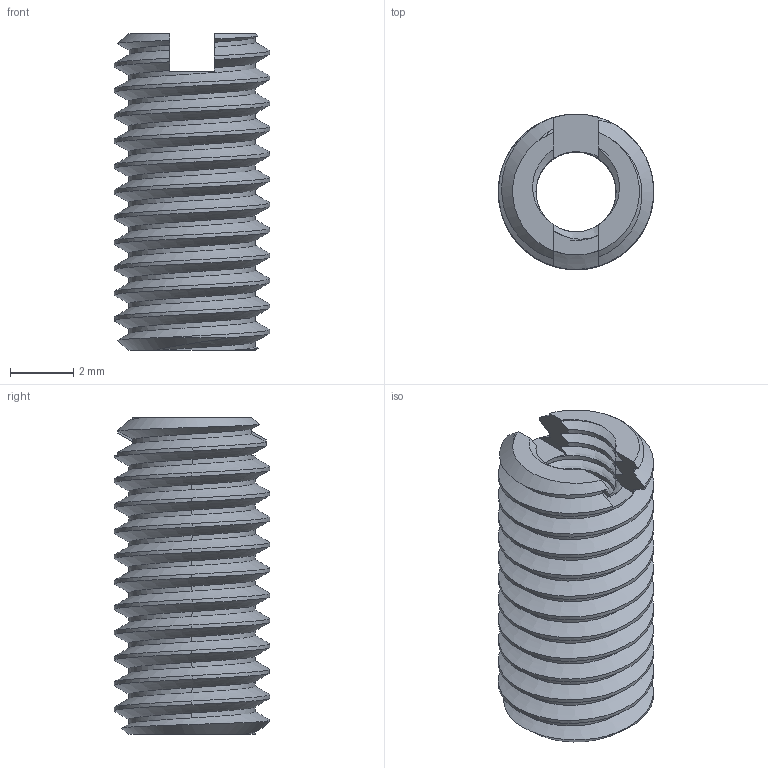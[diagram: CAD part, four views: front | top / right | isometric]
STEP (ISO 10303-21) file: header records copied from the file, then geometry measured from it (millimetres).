
FILE_DESCRIPTION(/* description */ (''),/* implementation_level */ '2;1');
FILE_NAME(/* name */ 'Thread Reducer - M5 to M3.step',/* time_stamp */ '2025-09-22T21:27:39+03:00',/* author */ (''),/* organization */ (''),/* preprocessor_version */ 'ST-DEVELOPER v20.1',/* originating_system */ 'Autodesk Translation Framework v14.10.0.0',/* authorisation */ '');
FILE_SCHEMA (('AUTOMOTIVE_DESIGN { 1 0 10303 214 3 1 1 }'));
Length unit declared in the file: millimetre
Products named in the file (1): Configuration 1
Bounding box: 4.91 x 4.9 x 10 mm (x, y, z)
Volume: 90.8 mm3; surface area: 379.2 mm2
Topology: 1 solids, 1 shells, 109 faces, 324 edges, 216 vertices
Faces by surface type: cylinder 76, bspline 20, plane 9, cone 4
Full cylindrical faces by diameter (mm): 2.529 x9, 3.086 x4, 3.99 x6, 4.901 x5
Entity records: 8218 total; most frequent: CARTESIAN_POINT 5712, ORIENTED_EDGE 648, EDGE_CURVE 324, DIRECTION 315, VERTEX_POINT 216, B_SPLINE_CURVE_WITH_KNOTS 202, EDGE_LOOP 110, FACE_OUTER_BOUND 109
